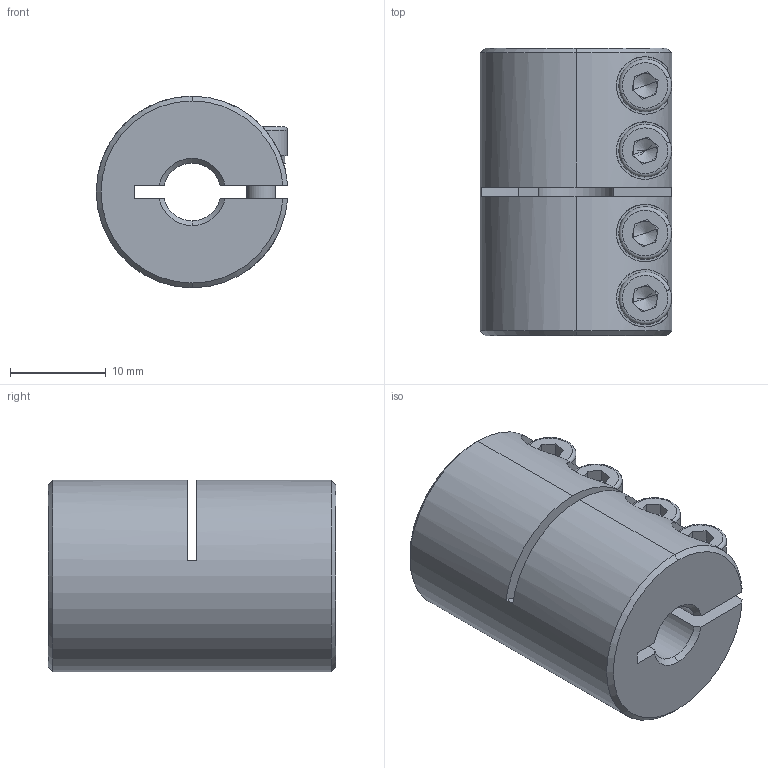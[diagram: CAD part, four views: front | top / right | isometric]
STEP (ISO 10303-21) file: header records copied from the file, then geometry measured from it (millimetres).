
FILE_DESCRIPTION (( 'STEP AP203' ), '1' );
FILE_NAME ('LL-B-D20L30-6-8.STEP', '2021-11-05T03:12:37', ( '' ), ( '' ), 'SwSTEP 2.0', 'SolidWorks 2018', '' );
FILE_SCHEMA (( 'CONFIG_CONTROL_DESIGN' ));
Length unit declared in the file: millimetre
Products named in the file (1): LL-B-D20L30-6-8
Bounding box: 19.98 x 30 x 20 mm (x, y, z)
Volume: 7575.3 mm3; surface area: 4547.6 mm2
Topology: 1 solids, 1 shells, 178 faces, 459 edges, 287 vertices
Faces by surface type: plane 89, cylinder 61, cone 20, torus 8
Entity records: 5821 total; most frequent: CARTESIAN_POINT 1349, DIRECTION 958, ORIENTED_EDGE 902, EDGE_CURVE 451, AXIS2_PLACEMENT_3D 368, VERTEX_POINT 287, VECTOR 222, LINE 222
